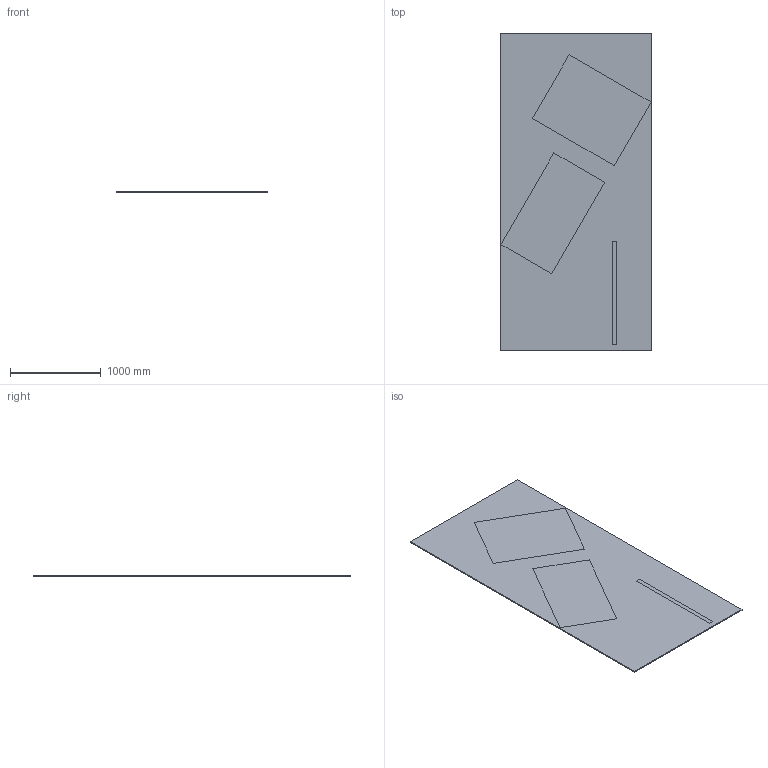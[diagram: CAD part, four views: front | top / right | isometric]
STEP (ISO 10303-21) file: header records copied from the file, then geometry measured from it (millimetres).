
FILE_DESCRIPTION(/* description */ (''),/* implementation_level */ '2;1');
FILE_NAME(/* name */ 'Bonaparte_167x350_3DL_20231017',/* time_stamp */ '2023-10-17T11:38:33+02:00',/* author */ (''),/* organization */ (''),/* preprocessor_version */ 'ST-DEVELOPER v16.5',/* originating_system */ 'Rhino 7.34',/* authorisation */ '');
FILE_SCHEMA (('CONFIG_CONTROL_DESIGN'));
Length unit declared in the file: millimetre
Products named in the file (1): Document
Bounding box: 1670 x 3500 x 12 mm (x, y, z)
Volume: 70140000 mm3; surface area: 12046786.6 mm2
Topology: 4 solids, 4 shells, 36 faces, 84 edges, 56 vertices
Faces by surface type: plane 36
Entity records: 980 total; most frequent: CARTESIAN_POINT 262, ORIENTED_EDGE 168, EDGE_CURVE 84, B_SPLINE_CURVE_WITH_KNOTS 84, VERTEX_POINT 56, EDGE_LOOP 42, DIRECTION 40, AXIS2_PLACEMENT_3D 38
